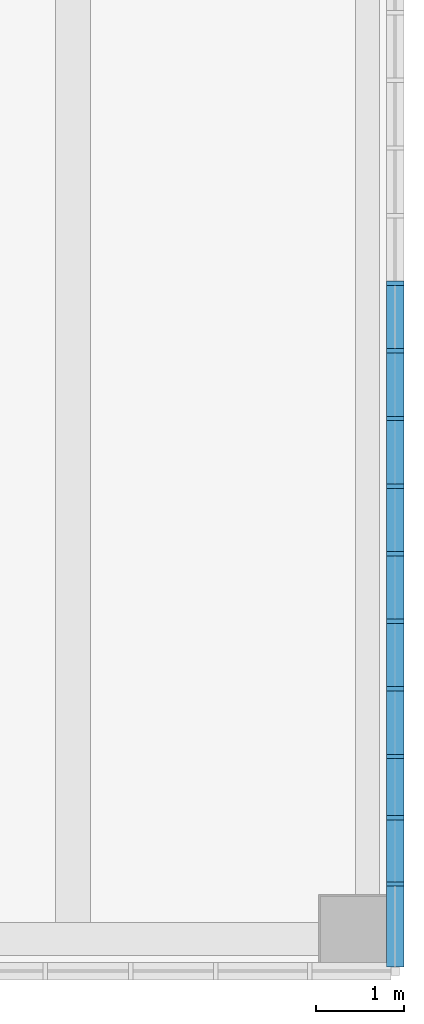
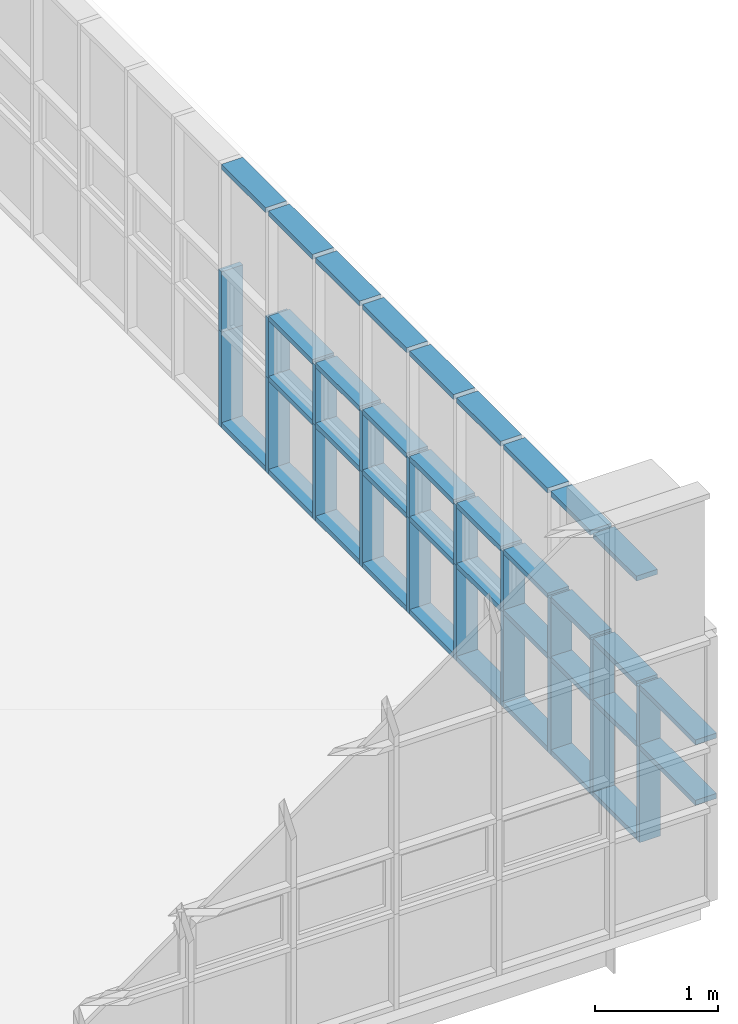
# One storey, part 22 of 76: 56 members, 1 element without a shape of its own.
"""IFC2X3 building model written with IfcOpenShell, lengths in millimetres."""

from ifc_helpers import new_model, entity, si_unit, converted_unit, derived_unit, direction, frame, origin, origin_2d_with_axis, place, context, subcontext, project, spatial, rectangle, extrude, source, transform, mapped, material, type_object, type_shapes, element, aggregate, save


model = new_model("IFC2X3")

# Units and contexts
model_context = context("Model", 3, precision=0.01, world=origin(), true_north=direction((6.123031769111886e-17, 1.0)))
body_context = subcontext(model_context, "Body", "Model", "MODEL_VIEW")
ifc_project = project(units=[si_unit("LENGTHUNIT", "METRE", prefix="MILLI"), si_unit("AREAUNIT", "SQUARE_METRE"), si_unit("VOLUMEUNIT", "CUBIC_METRE"), converted_unit("PLANEANGLEUNIT", "DEGREE", entity("IfcRatioMeasure", 0.017453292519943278), si_unit("PLANEANGLEUNIT", "RADIAN"), dimensions=[0, 0, 0, 0, 0, 0, 0]), si_unit("MASSUNIT", "GRAM", prefix="KILO"), derived_unit("MASSDENSITYUNIT", [(si_unit("MASSUNIT", "GRAM", prefix="KILO"), 1), (si_unit("LENGTHUNIT", "METRE"), -3)]), derived_unit("MOMENTOFINERTIAUNIT", [(si_unit("LENGTHUNIT", "METRE"), 4)]), si_unit("TIMEUNIT", "SECOND"), si_unit("FREQUENCYUNIT", "HERTZ"), si_unit("THERMODYNAMICTEMPERATUREUNIT", "DEGREE_CELSIUS"), derived_unit("THERMALTRANSMITTANCEUNIT", [(si_unit("MASSUNIT", "GRAM", prefix="KILO"), 1), (si_unit("THERMODYNAMICTEMPERATUREUNIT", "KELVIN"), -1), (si_unit("TIMEUNIT", "SECOND"), -3)]), derived_unit("VOLUMETRICFLOWRATEUNIT", [(si_unit("LENGTHUNIT", "METRE"), 3), (si_unit("TIMEUNIT", "SECOND"), -1)]), derived_unit("MASSFLOWRATEUNIT", [(si_unit("MASSUNIT", "GRAM", prefix="KILO"), 1), (si_unit("TIMEUNIT", "SECOND"), -1)]), derived_unit("ROTATIONALFREQUENCYUNIT", [(si_unit("TIMEUNIT", "SECOND"), -1)]), si_unit("ELECTRICCURRENTUNIT", "AMPERE"), si_unit("ELECTRICVOLTAGEUNIT", "VOLT"), si_unit("POWERUNIT", "WATT"), si_unit("FORCEUNIT", "NEWTON", prefix="KILO"), si_unit("ILLUMINANCEUNIT", "LUX"), si_unit("LUMINOUSFLUXUNIT", "LUMEN"), si_unit("LUMINOUSINTENSITYUNIT", "CANDELA"), derived_unit("USERDEFINED", [(si_unit("MASSUNIT", "GRAM", prefix="KILO"), -1), (si_unit("LENGTHUNIT", "METRE"), -2), (si_unit("TIMEUNIT", "SECOND"), 3), (si_unit("LUMINOUSFLUXUNIT", "LUMEN"), 1)]), derived_unit("SOUNDPOWERUNIT", [(si_unit("MASSUNIT", "GRAM", prefix="KILO"), 1), (si_unit("LENGTHUNIT", "METRE"), 2), (si_unit("TIMEUNIT", "SECOND"), -3)]), derived_unit("SOUNDPRESSUREUNIT", [(si_unit("MASSUNIT", "GRAM", prefix="KILO"), 1), (si_unit("LENGTHUNIT", "METRE"), -1), (si_unit("TIMEUNIT", "SECOND"), -2)]), derived_unit("LINEARVELOCITYUNIT", [(si_unit("LENGTHUNIT", "METRE"), 1), (si_unit("TIMEUNIT", "SECOND"), -1)]), si_unit("PRESSUREUNIT", "PASCAL"), derived_unit("USERDEFINED", [(si_unit("LENGTHUNIT", "METRE"), -2), (si_unit("MASSUNIT", "GRAM", prefix="KILO"), 1), (si_unit("TIMEUNIT", "SECOND"), -2)]), derived_unit("LINEARFORCEUNIT", [(si_unit("MASSUNIT", "GRAM", prefix="KILO"), 1), (si_unit("LENGTHUNIT", "METRE"), 1), (si_unit("TIMEUNIT", "SECOND"), -2), (si_unit("LENGTHUNIT", "METRE"), -1)]), derived_unit("PLANARFORCEUNIT", [(si_unit("MASSUNIT", "GRAM", prefix="KILO"), 1), (si_unit("LENGTHUNIT", "METRE"), 1), (si_unit("TIMEUNIT", "SECOND"), -2), (si_unit("LENGTHUNIT", "METRE"), -2)])], contexts=[model_context])

# Site, building, storey
site_placement = place(None, frame((-14167.972527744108, -657.2125860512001, 0.0)))
site = spatial("IfcSite", under=ifc_project, at=site_placement, Name="Default", CompositionType="ELEMENT")
building_placement = place(site_placement, origin())
building = spatial("IfcBuilding", under=site, at=building_placement, Name="Sample Building", CompositionType="ELEMENT")
storey_placement = place(building_placement, frame((0.0, 0.0, 9300.0)))
storey = spatial("IfcBuildingStorey", under=building, at=storey_placement, Name="지상 3층", CompositionType="ELEMENT", Elevation=9300.000000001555)

# Curtain wall, members
curtain_wall_type = type_object("IfcCurtainWallType", Name="커튼월:CW112-스테인리스 스틸 커튼월", PredefinedType="NOTDEFINED")
curtain_wall_placement = place(storey_placement, frame((0.0, 0.0, -9300.0)))
curtain_wall = element("IfcCurtainWall", 1, at=curtain_wall_placement, inside=storey, type_object=curtain_wall_type, Name="커튼월:CW112-스테인리스 스틸 커튼월", ObjectType="커튼월:CW112-스테인리스 스틸 커튼월")
ifc_material = material(Name="<Unnamed>")
member_type_1 = type_object("IfcMemberType", Name="직사각형 멀리언:CW200-직사각형 멀리언 50x200mm", PredefinedType="MULLION", material=ifc_material)
shared_shape_1 = source(origin(), body_context, "Body", "SweptSolid", [
    extrude(rectangle(XDim=200.0, YDim=50.0, at=origin_2d_with_axis()), frame((0.0, 0.0, -950.0), z_axis=(0.0, 0.0, 1.0), x_axis=(0.0, -1.0, 0.0)), (0.0, 0.0, 1.0), 950.0000000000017),
])
type_shapes(member_type_1, [shared_shape_1])
member_1_placement = place(curtain_wall_placement, frame((51517.96382893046, 3704.817707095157, 9380.0), z_axis=(0.0, 0.0, -1.0), x_axis=(0.0, -1.0, 0.0)))
member_1 = element("IfcMember", 2, at=member_1_placement, type_object=member_type_1, material=ifc_material, Name="직사각형 멀리언:CW200-직사각형 멀리언 50x200mm", ObjectType="직사각형 멀리언:CW200-직사각형 멀리언 50x200mm", context=body_context, shape_type="MappedRepresentation", body=[
    mapped(shared_shape_1, transform((0.0, 0.0, 0.0), scale=1.0)),
])
member_2_placement = place(curtain_wall_placement, frame((51517.96382893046, 2938.817707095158, 9380.0), z_axis=(0.0, 0.0, -1.0), x_axis=(0.0, -1.0, 0.0)))
member_2 = element("IfcMember", 3, at=member_2_placement, type_object=member_type_1, material=ifc_material, Name="직사각형 멀리언:CW200-직사각형 멀리언 50x200mm", ObjectType="직사각형 멀리언:CW200-직사각형 멀리언 50x200mm", context=body_context, shape_type="MappedRepresentation", body=[
    mapped(shared_shape_1, transform((0.0, 0.0, 0.0), scale=1.0)),
])
member_3_placement = place(curtain_wall_placement, frame((51517.96382893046, 2246.817707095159, 9380.0), z_axis=(0.0, 0.0, -1.0), x_axis=(0.0, -1.0, 0.0)))
member_3 = element("IfcMember", 4, at=member_3_placement, type_object=member_type_1, material=ifc_material, Name="직사각형 멀리언:CW200-직사각형 멀리언 50x200mm", ObjectType="직사각형 멀리언:CW200-직사각형 멀리언 50x200mm", context=body_context, shape_type="MappedRepresentation", body=[
    mapped(shared_shape_1, transform((0.0, 0.0, 0.0), scale=1.0)),
])
member_4_placement = place(curtain_wall_placement, frame((51517.96382893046, 1494.8177070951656, 9380.0), z_axis=(0.0, 0.0, -1.0), x_axis=(0.0, -1.0, 0.0)))
member_4 = element("IfcMember", 5, at=member_4_placement, type_object=member_type_1, material=ifc_material, Name="직사각형 멀리언:CW200-직사각형 멀리언 50x200mm", ObjectType="직사각형 멀리언:CW200-직사각형 멀리언 50x200mm", context=body_context, shape_type="MappedRepresentation", body=[
    mapped(shared_shape_1, transform((0.0, 0.0, 0.0), scale=1.0)),
])
member_5_placement = place(curtain_wall_placement, frame((51517.96382893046, 4470.817707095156, 9380.0), z_axis=(0.0, 0.0, -1.0), x_axis=(0.0, -1.0, 0.0)))
member_5 = element("IfcMember", 6, at=member_5_placement, type_object=member_type_1, material=ifc_material, Name="직사각형 멀리언:CW200-직사각형 멀리언 50x200mm", ObjectType="직사각형 멀리언:CW200-직사각형 멀리언 50x200mm", context=body_context, shape_type="MappedRepresentation", body=[
    mapped(shared_shape_1, transform((0.0, 0.0, 0.0), scale=1.0)),
])
member_6_placement = place(curtain_wall_placement, frame((51517.96382893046, 5236.817707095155, 9380.0), z_axis=(0.0, 0.0, -1.0), x_axis=(0.0, -1.0, 0.0)))
member_6 = element("IfcMember", 7, at=member_6_placement, type_object=member_type_1, material=ifc_material, Name="직사각형 멀리언:CW200-직사각형 멀리언 50x200mm", ObjectType="직사각형 멀리언:CW200-직사각형 멀리언 50x200mm", context=body_context, shape_type="MappedRepresentation", body=[
    mapped(shared_shape_1, transform((0.0, 0.0, 0.0), scale=1.0)),
])
member_7_placement = place(curtain_wall_placement, frame((51517.96382893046, 6002.817707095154, 9380.0), z_axis=(0.0, 0.0, -1.0), x_axis=(0.0, -1.0, 0.0)))
member_7 = element("IfcMember", 8, at=member_7_placement, type_object=member_type_1, material=ifc_material, Name="직사각형 멀리언:CW200-직사각형 멀리언 50x200mm", ObjectType="직사각형 멀리언:CW200-직사각형 멀리언 50x200mm", context=body_context, shape_type="MappedRepresentation", body=[
    mapped(shared_shape_1, transform((0.0, 0.0, 0.0), scale=1.0)),
])
member_8_placement = place(curtain_wall_placement, frame((51517.96382893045, 6768.817707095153, 9380.0), z_axis=(0.0, 0.0, -1.0), x_axis=(0.0, -1.0, 0.0)))
member_8 = element("IfcMember", 9, at=member_8_placement, type_object=member_type_1, material=ifc_material, Name="직사각형 멀리언:CW200-직사각형 멀리언 50x200mm", ObjectType="직사각형 멀리언:CW200-직사각형 멀리언 50x200mm", context=body_context, shape_type="MappedRepresentation", body=[
    mapped(shared_shape_1, transform((0.0, 0.0, 0.0), scale=1.0)),
])
member_9_placement = place(curtain_wall_placement, frame((51517.96382893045, 7534.817707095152, 9380.0), z_axis=(0.0, 0.0, -1.0), x_axis=(0.0, -1.0, 0.0)))
member_9 = element("IfcMember", 10, at=member_9_placement, type_object=member_type_1, material=ifc_material, Name="직사각형 멀리언:CW200-직사각형 멀리언 50x200mm", ObjectType="직사각형 멀리언:CW200-직사각형 멀리언 50x200mm", context=body_context, shape_type="MappedRepresentation", body=[
    mapped(shared_shape_1, transform((0.0, 0.0, 0.0), scale=1.0)),
])
member_10_placement = place(curtain_wall_placement, frame((51517.96382893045, 8300.817707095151, 9380.0), z_axis=(0.0, 0.0, -1.0), x_axis=(0.0, -1.0, 0.0)))
member_10 = element("IfcMember", 11, at=member_10_placement, type_object=member_type_1, material=ifc_material, Name="직사각형 멀리언:CW200-직사각형 멀리언 50x200mm", ObjectType="직사각형 멀리언:CW200-직사각형 멀리언 50x200mm", context=body_context, shape_type="MappedRepresentation", body=[
    mapped(shared_shape_1, transform((0.0, 0.0, 0.0), scale=1.0)),
])
member_type_2 = type_object("IfcMemberType", Name="직사각형 멀리언:CW200-직사각형 멀리언 50x200mm", PredefinedType="MULLION", material=ifc_material)
shared_shape_2 = source(origin(), body_context, "Body", "SweptSolid", [
    extrude(rectangle(XDim=200.0, YDim=50.0, at=origin_2d_with_axis()), frame((0.0, 0.0, -600.0), z_axis=(0.0, 0.0, 1.0), x_axis=(0.0, -1.0, 0.0)), (0.0, 0.0, 1.0), 599.9999999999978),
])
type_shapes(member_type_2, [shared_shape_2])
member_11_placement = place(curtain_wall_placement, frame((51517.96382893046, 3704.817707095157, 10330.0), z_axis=(0.0, 0.0, -1.0), x_axis=(0.0, -1.0, 0.0)))
member_11 = element("IfcMember", 12, at=member_11_placement, type_object=member_type_2, material=ifc_material, Name="직사각형 멀리언:CW200-직사각형 멀리언 50x200mm", ObjectType="직사각형 멀리언:CW200-직사각형 멀리언 50x200mm", context=body_context, shape_type="MappedRepresentation", body=[
    mapped(shared_shape_2, transform((0.0, 0.0, 0.0), scale=1.0)),
])
member_12_placement = place(curtain_wall_placement, frame((51517.96382893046, 2938.817707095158, 10330.0), z_axis=(0.0, 0.0, -1.0), x_axis=(0.0, -1.0, 0.0)))
member_12 = element("IfcMember", 13, at=member_12_placement, type_object=member_type_2, material=ifc_material, Name="직사각형 멀리언:CW200-직사각형 멀리언 50x200mm", ObjectType="직사각형 멀리언:CW200-직사각형 멀리언 50x200mm", context=body_context, shape_type="MappedRepresentation", body=[
    mapped(shared_shape_2, transform((0.0, 0.0, 0.0), scale=1.0)),
])
member_13_placement = place(curtain_wall_placement, frame((51517.96382893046, 2246.817707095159, 10330.0), z_axis=(0.0, 0.0, -1.0), x_axis=(0.0, -1.0, 0.0)))
member_13 = element("IfcMember", 14, at=member_13_placement, type_object=member_type_2, material=ifc_material, Name="직사각형 멀리언:CW200-직사각형 멀리언 50x200mm", ObjectType="직사각형 멀리언:CW200-직사각형 멀리언 50x200mm", context=body_context, shape_type="MappedRepresentation", body=[
    mapped(shared_shape_2, transform((0.0, 0.0, 0.0), scale=1.0)),
])
member_14_placement = place(curtain_wall_placement, frame((51517.96382893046, 1494.8177070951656, 10330.0), z_axis=(0.0, 0.0, -1.0), x_axis=(0.0, -1.0, 0.0)))
member_14 = element("IfcMember", 15, at=member_14_placement, type_object=member_type_2, material=ifc_material, Name="직사각형 멀리언:CW200-직사각형 멀리언 50x200mm", ObjectType="직사각형 멀리언:CW200-직사각형 멀리언 50x200mm", context=body_context, shape_type="MappedRepresentation", body=[
    mapped(shared_shape_2, transform((0.0, 0.0, 0.0), scale=1.0)),
])
member_15_placement = place(curtain_wall_placement, frame((51517.96382893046, 4470.817707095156, 10330.0), z_axis=(0.0, 0.0, -1.0), x_axis=(0.0, -1.0, 0.0)))
member_15 = element("IfcMember", 16, at=member_15_placement, type_object=member_type_2, material=ifc_material, Name="직사각형 멀리언:CW200-직사각형 멀리언 50x200mm", ObjectType="직사각형 멀리언:CW200-직사각형 멀리언 50x200mm", context=body_context, shape_type="MappedRepresentation", body=[
    mapped(shared_shape_2, transform((0.0, 0.0, 0.0), scale=1.0)),
])
member_16_placement = place(curtain_wall_placement, frame((51517.96382893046, 5236.817707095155, 10330.0), z_axis=(0.0, 0.0, -1.0), x_axis=(0.0, -1.0, 0.0)))
member_16 = element("IfcMember", 17, at=member_16_placement, type_object=member_type_2, material=ifc_material, Name="직사각형 멀리언:CW200-직사각형 멀리언 50x200mm", ObjectType="직사각형 멀리언:CW200-직사각형 멀리언 50x200mm", context=body_context, shape_type="MappedRepresentation", body=[
    mapped(shared_shape_2, transform((0.0, 0.0, 0.0), scale=1.0)),
])
member_17_placement = place(curtain_wall_placement, frame((51517.96382893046, 6002.817707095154, 10330.0), z_axis=(0.0, 0.0, -1.0), x_axis=(0.0, -1.0, 0.0)))
member_17 = element("IfcMember", 18, at=member_17_placement, type_object=member_type_2, material=ifc_material, Name="직사각형 멀리언:CW200-직사각형 멀리언 50x200mm", ObjectType="직사각형 멀리언:CW200-직사각형 멀리언 50x200mm", context=body_context, shape_type="MappedRepresentation", body=[
    mapped(shared_shape_2, transform((0.0, 0.0, 0.0), scale=1.0)),
])
member_18_placement = place(curtain_wall_placement, frame((51517.96382893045, 6768.817707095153, 10330.0), z_axis=(0.0, 0.0, -1.0), x_axis=(0.0, -1.0, 0.0)))
member_18 = element("IfcMember", 19, at=member_18_placement, type_object=member_type_2, material=ifc_material, Name="직사각형 멀리언:CW200-직사각형 멀리언 50x200mm", ObjectType="직사각형 멀리언:CW200-직사각형 멀리언 50x200mm", context=body_context, shape_type="MappedRepresentation", body=[
    mapped(shared_shape_2, transform((0.0, 0.0, 0.0), scale=1.0)),
])
member_19_placement = place(curtain_wall_placement, frame((51517.96382893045, 7534.817707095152, 10330.0), z_axis=(0.0, 0.0, -1.0), x_axis=(0.0, -1.0, 0.0)))
member_19 = element("IfcMember", 20, at=member_19_placement, type_object=member_type_2, material=ifc_material, Name="직사각형 멀리언:CW200-직사각형 멀리언 50x200mm", ObjectType="직사각형 멀리언:CW200-직사각형 멀리언 50x200mm", context=body_context, shape_type="MappedRepresentation", body=[
    mapped(shared_shape_2, transform((0.0, 0.0, 0.0), scale=1.0)),
])
member_20_placement = place(curtain_wall_placement, frame((51517.96382893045, 8300.817707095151, 10330.0), z_axis=(0.0, 0.0, -1.0), x_axis=(0.0, -1.0, 0.0)))
member_20 = element("IfcMember", 21, at=member_20_placement, type_object=member_type_2, material=ifc_material, Name="직사각형 멀리언:CW200-직사각형 멀리언 50x200mm", ObjectType="직사각형 멀리언:CW200-직사각형 멀리언 50x200mm", context=body_context, shape_type="MappedRepresentation", body=[
    mapped(shared_shape_2, transform((0.0, 0.0, 0.0), scale=1.0)),
])
member_type_3 = type_object("IfcMemberType", Name="직사각형 멀리언:CW200-직사각형 멀리언 50x200mm", PredefinedType="MULLION", material=ifc_material)
shared_shape_3 = source(origin(), body_context, "Body", "SweptSolid", [
    extrude(rectangle(XDim=200.0, YDim=50.0, at=origin_2d_with_axis()), frame((-25.0, 0.0, -716.0), z_axis=(0.0, 0.0, 1.0), x_axis=(0.0, -1.0, 0.0)), (0.0, 0.0, 1.0), 715.9999999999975),
])
type_shapes(member_type_3, [shared_shape_3])
member_21_placement = place(curtain_wall_placement, frame((51517.96382893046, 3729.817707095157, 12000.0), z_axis=(0.0, -1.0, 0.0), x_axis=(0.0, 0.0, 1.0)))
member_21 = element("IfcMember", 22, at=member_21_placement, type_object=member_type_3, material=ifc_material, Name="직사각형 멀리언:CW200-직사각형 멀리언 50x200mm", ObjectType="직사각형 멀리언:CW200-직사각형 멀리언 50x200mm", context=body_context, shape_type="MappedRepresentation", body=[
    mapped(shared_shape_3, transform((0.0, 0.0, 0.0), scale=1.0)),
])
member_22_placement = place(curtain_wall_placement, frame((51517.96382893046, 2963.817707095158, 12000.0), z_axis=(0.0, -1.0, 0.0), x_axis=(0.0, 0.0, 1.0)))
member_22 = element("IfcMember", 23, at=member_22_placement, type_object=member_type_3, material=ifc_material, Name="직사각형 멀리언:CW200-직사각형 멀리언 50x200mm", ObjectType="직사각형 멀리언:CW200-직사각형 멀리언 50x200mm", context=body_context, shape_type="MappedRepresentation", body=[
    mapped(shared_shape_3, transform((0.0, 0.0, 0.0), scale=1.0)),
])
member_23_placement = place(curtain_wall_placement, frame((51517.96382893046, 4495.817707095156, 12000.0), z_axis=(0.0, -1.0, 0.0), x_axis=(0.0, 0.0, 1.0)))
member_23 = element("IfcMember", 24, at=member_23_placement, type_object=member_type_3, material=ifc_material, Name="직사각형 멀리언:CW200-직사각형 멀리언 50x200mm", ObjectType="직사각형 멀리언:CW200-직사각형 멀리언 50x200mm", context=body_context, shape_type="MappedRepresentation", body=[
    mapped(shared_shape_3, transform((0.0, 0.0, 0.0), scale=1.0)),
])
member_24_placement = place(curtain_wall_placement, frame((51517.96382893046, 5261.817707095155, 12000.0), z_axis=(0.0, -1.0, 0.0), x_axis=(0.0, 0.0, 1.0)))
member_24 = element("IfcMember", 25, at=member_24_placement, type_object=member_type_3, material=ifc_material, Name="직사각형 멀리언:CW200-직사각형 멀리언 50x200mm", ObjectType="직사각형 멀리언:CW200-직사각형 멀리언 50x200mm", context=body_context, shape_type="MappedRepresentation", body=[
    mapped(shared_shape_3, transform((0.0, 0.0, 0.0), scale=1.0)),
])
member_25_placement = place(curtain_wall_placement, frame((51517.96382893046, 6027.817707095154, 12000.0), z_axis=(0.0, -1.0, 0.0), x_axis=(0.0, 0.0, 1.0)))
member_25 = element("IfcMember", 26, at=member_25_placement, type_object=member_type_3, material=ifc_material, Name="직사각형 멀리언:CW200-직사각형 멀리언 50x200mm", ObjectType="직사각형 멀리언:CW200-직사각형 멀리언 50x200mm", context=body_context, shape_type="MappedRepresentation", body=[
    mapped(shared_shape_3, transform((0.0, 0.0, 0.0), scale=1.0)),
])
member_26_placement = place(curtain_wall_placement, frame((51517.96382893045, 6793.817707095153, 12000.0), z_axis=(0.0, -1.0, 0.0), x_axis=(0.0, 0.0, 1.0)))
member_26 = element("IfcMember", 27, at=member_26_placement, type_object=member_type_3, material=ifc_material, Name="직사각형 멀리언:CW200-직사각형 멀리언 50x200mm", ObjectType="직사각형 멀리언:CW200-직사각형 멀리언 50x200mm", context=body_context, shape_type="MappedRepresentation", body=[
    mapped(shared_shape_3, transform((0.0, 0.0, 0.0), scale=1.0)),
])
member_27_placement = place(curtain_wall_placement, frame((51517.96382893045, 7559.817707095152, 12000.0), z_axis=(0.0, -1.0, 0.0), x_axis=(0.0, 0.0, 1.0)))
member_27 = element("IfcMember", 28, at=member_27_placement, type_object=member_type_3, material=ifc_material, Name="직사각형 멀리언:CW200-직사각형 멀리언 50x200mm", ObjectType="직사각형 멀리언:CW200-직사각형 멀리언 50x200mm", context=body_context, shape_type="MappedRepresentation", body=[
    mapped(shared_shape_3, transform((0.0, 0.0, 0.0), scale=1.0)),
])
member_type_4 = type_object("IfcMemberType", Name="직사각형 멀리언:CW200-직사각형 멀리언 50x200mm", PredefinedType="MULLION", material=ifc_material)
shared_shape_4 = source(origin(), body_context, "Body", "SweptSolid", [
    extrude(rectangle(XDim=200.0, YDim=50.0, at=origin_2d_with_axis()), frame((-25.0, 0.0, -716.0), z_axis=(0.0, 0.0, 1.0), x_axis=(0.0, -1.0, 0.0)), (0.0, 0.0, 1.0), 716.0000000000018),
])
type_shapes(member_type_4, [shared_shape_4])
member_28_placement = place(curtain_wall_placement, frame((51517.96382893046, 3679.8177070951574, 9380.0), z_axis=(0.0, 1.0, 0.0), x_axis=(0.0, 0.0, -1.0)))
member_28 = element("IfcMember", 29, at=member_28_placement, type_object=member_type_4, material=ifc_material, Name="직사각형 멀리언:CW200-직사각형 멀리언 50x200mm", ObjectType="직사각형 멀리언:CW200-직사각형 멀리언 50x200mm", context=body_context, shape_type="MappedRepresentation", body=[
    mapped(shared_shape_4, transform((0.0, 0.0, 0.0), scale=1.0)),
])
member_29_placement = place(curtain_wall_placement, frame((51517.96382893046, 4445.817707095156, 9380.0), z_axis=(0.0, 1.0, 0.0), x_axis=(0.0, 0.0, -1.0)))
member_29 = element("IfcMember", 30, at=member_29_placement, type_object=member_type_4, material=ifc_material, Name="직사각형 멀리언:CW200-직사각형 멀리언 50x200mm", ObjectType="직사각형 멀리언:CW200-직사각형 멀리언 50x200mm", context=body_context, shape_type="MappedRepresentation", body=[
    mapped(shared_shape_4, transform((0.0, 0.0, 0.0), scale=1.0)),
])
member_30_placement = place(curtain_wall_placement, frame((51517.96382893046, 5211.817707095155, 9380.0), z_axis=(0.0, 1.0, 0.0), x_axis=(0.0, 0.0, -1.0)))
member_30 = element("IfcMember", 31, at=member_30_placement, type_object=member_type_4, material=ifc_material, Name="직사각형 멀리언:CW200-직사각형 멀리언 50x200mm", ObjectType="직사각형 멀리언:CW200-직사각형 멀리언 50x200mm", context=body_context, shape_type="MappedRepresentation", body=[
    mapped(shared_shape_4, transform((0.0, 0.0, 0.0), scale=1.0)),
])
member_31_placement = place(curtain_wall_placement, frame((51517.96382893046, 5977.817707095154, 9380.0), z_axis=(0.0, 1.0, 0.0), x_axis=(0.0, 0.0, -1.0)))
member_31 = element("IfcMember", 32, at=member_31_placement, type_object=member_type_4, material=ifc_material, Name="직사각형 멀리언:CW200-직사각형 멀리언 50x200mm", ObjectType="직사각형 멀리언:CW200-직사각형 멀리언 50x200mm", context=body_context, shape_type="MappedRepresentation", body=[
    mapped(shared_shape_4, transform((0.0, 0.0, 0.0), scale=1.0)),
])
member_32_placement = place(curtain_wall_placement, frame((51517.96382893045, 6743.817707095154, 9380.0), z_axis=(0.0, 1.0, 0.0), x_axis=(0.0, 0.0, -1.0)))
member_32 = element("IfcMember", 33, at=member_32_placement, type_object=member_type_4, material=ifc_material, Name="직사각형 멀리언:CW200-직사각형 멀리언 50x200mm", ObjectType="직사각형 멀리언:CW200-직사각형 멀리언 50x200mm", context=body_context, shape_type="MappedRepresentation", body=[
    mapped(shared_shape_4, transform((0.0, 0.0, 0.0), scale=1.0)),
])
member_33_placement = place(curtain_wall_placement, frame((51517.96382893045, 7509.817707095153, 9380.0), z_axis=(0.0, 1.0, 0.0), x_axis=(0.0, 0.0, -1.0)))
member_33 = element("IfcMember", 34, at=member_33_placement, type_object=member_type_4, material=ifc_material, Name="직사각형 멀리언:CW200-직사각형 멀리언 50x200mm", ObjectType="직사각형 멀리언:CW200-직사각형 멀리언 50x200mm", context=body_context, shape_type="MappedRepresentation", body=[
    mapped(shared_shape_4, transform((0.0, 0.0, 0.0), scale=1.0)),
])
member_34_placement = place(curtain_wall_placement, frame((51517.96382893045, 8275.817707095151, 9380.0), z_axis=(0.0, 1.0, 0.0), x_axis=(0.0, 0.0, -1.0)))
member_34 = element("IfcMember", 35, at=member_34_placement, type_object=member_type_4, material=ifc_material, Name="직사각형 멀리언:CW200-직사각형 멀리언 50x200mm", ObjectType="직사각형 멀리언:CW200-직사각형 멀리언 50x200mm", context=body_context, shape_type="MappedRepresentation", body=[
    mapped(shared_shape_4, transform((0.0, 0.0, 0.0), scale=1.0)),
])
member_type_5 = type_object("IfcMemberType", Name="직사각형 멀리언:CW200-직사각형 멀리언 50x200mm", PredefinedType="MULLION", material=ifc_material)
shared_shape_5 = source(origin(), body_context, "Body", "SweptSolid", [
    extrude(rectangle(XDim=200.0, YDim=50.0, at=origin_2d_with_axis()), frame((0.0, 0.0, -716.0), z_axis=(0.0, 0.0, 1.0), x_axis=(0.0, -1.0, 0.0)), (0.0, 0.0, 1.0), 715.9999999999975),
])
type_shapes(member_type_5, [shared_shape_5])
member_35_placement = place(curtain_wall_placement, frame((51517.96382893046, 2963.817707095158, 10330.0), z_axis=(0.0, -1.0, 0.0), x_axis=(0.0, 0.0, 1.0)))
member_35 = element("IfcMember", 36, at=member_35_placement, type_object=member_type_5, material=ifc_material, Name="직사각형 멀리언:CW200-직사각형 멀리언 50x200mm", ObjectType="직사각형 멀리언:CW200-직사각형 멀리언 50x200mm", context=body_context, shape_type="MappedRepresentation", body=[
    mapped(shared_shape_5, transform((0.0, 0.0, 0.0), scale=1.0)),
])
member_36_placement = place(curtain_wall_placement, frame((51517.96382893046, 2963.817707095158, 10930.0), z_axis=(0.0, -1.0, 0.0), x_axis=(0.0, 0.0, 1.0)))
member_36 = element("IfcMember", 37, at=member_36_placement, type_object=member_type_5, material=ifc_material, Name="직사각형 멀리언:CW200-직사각형 멀리언 50x200mm", ObjectType="직사각형 멀리언:CW200-직사각형 멀리언 50x200mm", context=body_context, shape_type="MappedRepresentation", body=[
    mapped(shared_shape_5, transform((0.0, 0.0, 0.0), scale=1.0)),
])
member_37_placement = place(curtain_wall_placement, frame((51517.96382893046, 3729.817707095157, 10330.0), z_axis=(0.0, -1.0, 0.0), x_axis=(0.0, 0.0, 1.0)))
member_37 = element("IfcMember", 38, at=member_37_placement, type_object=member_type_5, material=ifc_material, Name="직사각형 멀리언:CW200-직사각형 멀리언 50x200mm", ObjectType="직사각형 멀리언:CW200-직사각형 멀리언 50x200mm", context=body_context, shape_type="MappedRepresentation", body=[
    mapped(shared_shape_5, transform((0.0, 0.0, 0.0), scale=1.0)),
])
member_38_placement = place(curtain_wall_placement, frame((51517.96382893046, 3729.817707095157, 10930.0), z_axis=(0.0, -1.0, 0.0), x_axis=(0.0, 0.0, 1.0)))
member_38 = element("IfcMember", 39, at=member_38_placement, type_object=member_type_5, material=ifc_material, Name="직사각형 멀리언:CW200-직사각형 멀리언 50x200mm", ObjectType="직사각형 멀리언:CW200-직사각형 멀리언 50x200mm", context=body_context, shape_type="MappedRepresentation", body=[
    mapped(shared_shape_5, transform((0.0, 0.0, 0.0), scale=1.0)),
])
member_39_placement = place(curtain_wall_placement, frame((51517.96382893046, 4495.817707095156, 10330.0), z_axis=(0.0, -1.0, 0.0), x_axis=(0.0, 0.0, 1.0)))
member_39 = element("IfcMember", 40, at=member_39_placement, type_object=member_type_5, material=ifc_material, Name="직사각형 멀리언:CW200-직사각형 멀리언 50x200mm", ObjectType="직사각형 멀리언:CW200-직사각형 멀리언 50x200mm", context=body_context, shape_type="MappedRepresentation", body=[
    mapped(shared_shape_5, transform((0.0, 0.0, 0.0), scale=1.0)),
])
member_40_placement = place(curtain_wall_placement, frame((51517.96382893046, 4495.817707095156, 10930.0), z_axis=(0.0, -1.0, 0.0), x_axis=(0.0, 0.0, 1.0)))
member_40 = element("IfcMember", 41, at=member_40_placement, type_object=member_type_5, material=ifc_material, Name="직사각형 멀리언:CW200-직사각형 멀리언 50x200mm", ObjectType="직사각형 멀리언:CW200-직사각형 멀리언 50x200mm", context=body_context, shape_type="MappedRepresentation", body=[
    mapped(shared_shape_5, transform((0.0, 0.0, 0.0), scale=1.0)),
])
member_41_placement = place(curtain_wall_placement, frame((51517.96382893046, 5261.817707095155, 10330.0), z_axis=(0.0, -1.0, 0.0), x_axis=(0.0, 0.0, 1.0)))
member_41 = element("IfcMember", 42, at=member_41_placement, type_object=member_type_5, material=ifc_material, Name="직사각형 멀리언:CW200-직사각형 멀리언 50x200mm", ObjectType="직사각형 멀리언:CW200-직사각형 멀리언 50x200mm", context=body_context, shape_type="MappedRepresentation", body=[
    mapped(shared_shape_5, transform((0.0, 0.0, 0.0), scale=1.0)),
])
member_42_placement = place(curtain_wall_placement, frame((51517.96382893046, 5261.817707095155, 10930.0), z_axis=(0.0, -1.0, 0.0), x_axis=(0.0, 0.0, 1.0)))
member_42 = element("IfcMember", 43, at=member_42_placement, type_object=member_type_5, material=ifc_material, Name="직사각형 멀리언:CW200-직사각형 멀리언 50x200mm", ObjectType="직사각형 멀리언:CW200-직사각형 멀리언 50x200mm", context=body_context, shape_type="MappedRepresentation", body=[
    mapped(shared_shape_5, transform((0.0, 0.0, 0.0), scale=1.0)),
])
member_43_placement = place(curtain_wall_placement, frame((51517.96382893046, 6027.817707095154, 10330.0), z_axis=(0.0, -1.0, 0.0), x_axis=(0.0, 0.0, 1.0)))
member_43 = element("IfcMember", 44, at=member_43_placement, type_object=member_type_5, material=ifc_material, Name="직사각형 멀리언:CW200-직사각형 멀리언 50x200mm", ObjectType="직사각형 멀리언:CW200-직사각형 멀리언 50x200mm", context=body_context, shape_type="MappedRepresentation", body=[
    mapped(shared_shape_5, transform((0.0, 0.0, 0.0), scale=1.0)),
])
member_44_placement = place(curtain_wall_placement, frame((51517.96382893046, 6027.817707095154, 10930.0), z_axis=(0.0, -1.0, 0.0), x_axis=(0.0, 0.0, 1.0)))
member_44 = element("IfcMember", 45, at=member_44_placement, type_object=member_type_5, material=ifc_material, Name="직사각형 멀리언:CW200-직사각형 멀리언 50x200mm", ObjectType="직사각형 멀리언:CW200-직사각형 멀리언 50x200mm", context=body_context, shape_type="MappedRepresentation", body=[
    mapped(shared_shape_5, transform((0.0, 0.0, 0.0), scale=1.0)),
])
member_45_placement = place(curtain_wall_placement, frame((51517.96382893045, 6793.817707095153, 10330.0), z_axis=(0.0, -1.0, 0.0), x_axis=(0.0, 0.0, 1.0)))
member_45 = element("IfcMember", 46, at=member_45_placement, type_object=member_type_5, material=ifc_material, Name="직사각형 멀리언:CW200-직사각형 멀리언 50x200mm", ObjectType="직사각형 멀리언:CW200-직사각형 멀리언 50x200mm", context=body_context, shape_type="MappedRepresentation", body=[
    mapped(shared_shape_5, transform((0.0, 0.0, 0.0), scale=1.0)),
])
member_46_placement = place(curtain_wall_placement, frame((51517.96382893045, 6793.817707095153, 10930.0), z_axis=(0.0, -1.0, 0.0), x_axis=(0.0, 0.0, 1.0)))
member_46 = element("IfcMember", 47, at=member_46_placement, type_object=member_type_5, material=ifc_material, Name="직사각형 멀리언:CW200-직사각형 멀리언 50x200mm", ObjectType="직사각형 멀리언:CW200-직사각형 멀리언 50x200mm", context=body_context, shape_type="MappedRepresentation", body=[
    mapped(shared_shape_5, transform((0.0, 0.0, 0.0), scale=1.0)),
])
member_type_6 = type_object("IfcMemberType", Name="직사각형 멀리언:CW200-직사각형 멀리언 50x200mm", PredefinedType="MULLION", material=ifc_material)
shared_shape_6 = source(origin(), body_context, "Body", "SweptSolid", [
    extrude(rectangle(XDim=200.0, YDim=50.0, at=origin_2d_with_axis()), frame((-25.0, 0.0, -642.0), z_axis=(0.0, 0.0, 1.0), x_axis=(0.0, -1.0, 0.0)), (0.0, 0.0, 1.0), 641.9999999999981),
])
type_shapes(member_type_6, [shared_shape_6])
member_47_placement = place(curtain_wall_placement, frame((51517.96382893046, 2913.8177070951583, 9380.0), z_axis=(0.0, 1.0, 0.0), x_axis=(0.0, 0.0, -1.0)))
member_47 = element("IfcMember", 48, at=member_47_placement, type_object=member_type_6, material=ifc_material, Name="직사각형 멀리언:CW200-직사각형 멀리언 50x200mm", ObjectType="직사각형 멀리언:CW200-직사각형 멀리언 50x200mm", context=body_context, shape_type="MappedRepresentation", body=[
    mapped(shared_shape_6, transform((0.0, 0.0, 0.0), scale=1.0)),
])
member_type_7 = type_object("IfcMemberType", Name="직사각형 멀리언:CW200-직사각형 멀리언 50x200mm", PredefinedType="MULLION", material=ifc_material)
shared_shape_7 = source(origin(), body_context, "Body", "SweptSolid", [
    extrude(rectangle(XDim=200.0, YDim=50.0, at=origin_2d_with_axis()), frame((0.0, 0.0, -642.0), z_axis=(0.0, 0.0, 1.0), x_axis=(0.0, -1.0, 0.0)), (0.0, 0.0, 1.0), 641.9999999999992),
])
type_shapes(member_type_7, [shared_shape_7])
member_48_placement = place(curtain_wall_placement, frame((51517.96382893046, 2271.817707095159, 10330.0), z_axis=(0.0, -1.0, 0.0), x_axis=(0.0, 0.0, 1.0)))
member_48 = element("IfcMember", 49, at=member_48_placement, type_object=member_type_7, material=ifc_material, Name="직사각형 멀리언:CW200-직사각형 멀리언 50x200mm", ObjectType="직사각형 멀리언:CW200-직사각형 멀리언 50x200mm", context=body_context, shape_type="MappedRepresentation", body=[
    mapped(shared_shape_7, transform((0.0, 0.0, 0.0), scale=1.0)),
])
member_49_placement = place(curtain_wall_placement, frame((51517.96382893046, 2271.817707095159, 10930.0), z_axis=(0.0, -1.0, 0.0), x_axis=(0.0, 0.0, 1.0)))
member_49 = element("IfcMember", 50, at=member_49_placement, type_object=member_type_7, material=ifc_material, Name="직사각형 멀리언:CW200-직사각형 멀리언 50x200mm", ObjectType="직사각형 멀리언:CW200-직사각형 멀리언 50x200mm", context=body_context, shape_type="MappedRepresentation", body=[
    mapped(shared_shape_7, transform((0.0, 0.0, 0.0), scale=1.0)),
])
member_type_8 = type_object("IfcMemberType", Name="직사각형 멀리언:CW200-직사각형 멀리언 50x200mm", PredefinedType="MULLION", material=ifc_material)
shared_shape_8 = source(origin(), body_context, "Body", "SweptSolid", [
    extrude(rectangle(XDim=200.0, YDim=50.0, at=origin_2d_with_axis()), frame((-25.0, 0.0, -642.0), z_axis=(0.0, 0.0, 1.0), x_axis=(0.0, -1.0, 0.0)), (0.0, 0.0, 1.0), 641.9999999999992),
])
type_shapes(member_type_8, [shared_shape_8])
member_50_placement = place(curtain_wall_placement, frame((51517.96382893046, 2271.817707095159, 12000.0), z_axis=(0.0, -1.0, 0.0), x_axis=(0.0, 0.0, 1.0)))
member_50 = element("IfcMember", 51, at=member_50_placement, type_object=member_type_8, material=ifc_material, Name="직사각형 멀리언:CW200-직사각형 멀리언 50x200mm", ObjectType="직사각형 멀리언:CW200-직사각형 멀리언 50x200mm", context=body_context, shape_type="MappedRepresentation", body=[
    mapped(shared_shape_8, transform((0.0, 0.0, 0.0), scale=1.0)),
])
member_type_9 = type_object("IfcMemberType", Name="직사각형 멀리언:CW200-직사각형 멀리언 50x200mm", PredefinedType="MULLION", material=ifc_material)
shared_shape_9 = source(origin(), body_context, "Body", "SweptSolid", [
    extrude(rectangle(XDim=200.0, YDim=50.0, at=origin_2d_with_axis()), frame((-25.0, 0.0, -702.0), z_axis=(0.0, 0.0, 1.0), x_axis=(0.0, -1.0, 0.0)), (0.0, 0.0, 1.0), 701.9999999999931),
])
type_shapes(member_type_9, [shared_shape_9])
member_51_placement = place(curtain_wall_placement, frame((51517.96382893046, 2221.817707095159, 9380.0), z_axis=(0.0, 1.0, 0.0), x_axis=(0.0, 0.0, -1.0)))
member_51 = element("IfcMember", 52, at=member_51_placement, type_object=member_type_9, material=ifc_material, Name="직사각형 멀리언:CW200-직사각형 멀리언 50x200mm", ObjectType="직사각형 멀리언:CW200-직사각형 멀리언 50x200mm", context=body_context, shape_type="MappedRepresentation", body=[
    mapped(shared_shape_9, transform((0.0, 0.0, 0.0), scale=1.0)),
])
member_type_10 = type_object("IfcMemberType", Name="직사각형 멀리언:CW200-직사각형 멀리언 50x200mm", PredefinedType="MULLION", material=ifc_material)
shared_shape_10 = source(origin(), body_context, "Body", "SweptSolid", [
    extrude(rectangle(XDim=200.0, YDim=50.0, at=origin_2d_with_axis()), frame((0.0, 0.0, -702.0), z_axis=(0.0, 0.0, 1.0), x_axis=(0.0, -1.0, 0.0)), (0.0, 0.0, 1.0), 701.9999999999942),
])
type_shapes(member_type_10, [shared_shape_10])
member_52_placement = place(curtain_wall_placement, frame((51517.96382893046, 1519.8177070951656, 10330.0), z_axis=(0.0, -1.0, 0.0), x_axis=(0.0, 0.0, 1.0)))
member_52 = element("IfcMember", 53, at=member_52_placement, type_object=member_type_10, material=ifc_material, Name="직사각형 멀리언:CW200-직사각형 멀리언 50x200mm", ObjectType="직사각형 멀리언:CW200-직사각형 멀리언 50x200mm", context=body_context, shape_type="MappedRepresentation", body=[
    mapped(shared_shape_10, transform((0.0, 0.0, 0.0), scale=1.0)),
])
member_53_placement = place(curtain_wall_placement, frame((51517.96382893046, 1519.8177070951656, 10930.0), z_axis=(0.0, -1.0, 0.0), x_axis=(0.0, 0.0, 1.0)))
member_53 = element("IfcMember", 54, at=member_53_placement, type_object=member_type_10, material=ifc_material, Name="직사각형 멀리언:CW200-직사각형 멀리언 50x200mm", ObjectType="직사각형 멀리언:CW200-직사각형 멀리언 50x200mm", context=body_context, shape_type="MappedRepresentation", body=[
    mapped(shared_shape_10, transform((0.0, 0.0, 0.0), scale=1.0)),
])
member_type_11 = type_object("IfcMemberType", Name="직사각형 멀리언:CW200-직사각형 멀리언 50x200mm", PredefinedType="MULLION", material=ifc_material)
shared_shape_11 = source(origin(), body_context, "Body", "SweptSolid", [
    extrude(rectangle(XDim=200.0, YDim=50.0, at=origin_2d_with_axis()), frame((-25.0, 0.0, -702.0), z_axis=(0.0, 0.0, 1.0), x_axis=(0.0, -1.0, 0.0)), (0.0, 0.0, 1.0), 701.9999999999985),
])
type_shapes(member_type_11, [shared_shape_11])
member_54_placement = place(curtain_wall_placement, frame((51517.96382893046, 1519.8177070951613, 12000.0), z_axis=(0.0, -1.0, 0.0), x_axis=(0.0, 0.0, 1.0)))
member_54 = element("IfcMember", 55, at=member_54_placement, type_object=member_type_11, material=ifc_material, Name="직사각형 멀리언:CW200-직사각형 멀리언 50x200mm", ObjectType="직사각형 멀리언:CW200-직사각형 멀리언 50x200mm", context=body_context, shape_type="MappedRepresentation", body=[
    mapped(shared_shape_11, transform((0.0, 0.0, 0.0), scale=1.0)),
])
member_type_12 = type_object("IfcMemberType", Name="직사각형 멀리언:CW200-직사각형 멀리언 50x200mm", PredefinedType="MULLION", material=ifc_material)
shared_shape_12 = source(origin(), body_context, "Body", "SweptSolid", [
    extrude(rectangle(XDim=200.0, YDim=50.0, at=origin_2d_with_axis()), frame((0.0, 0.0, -912.6053991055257), z_axis=(0.0, 0.0, 1.0), x_axis=(0.0, -1.0, 0.0)), (0.0, 0.0, 1.0), 912.6053991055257),
])
type_shapes(member_type_12, [shared_shape_12])
member_55_placement = place(curtain_wall_placement, frame((51517.96382893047, 557.2123079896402, 10330.0), z_axis=(0.0, -1.0, 0.0), x_axis=(0.0, 0.0, 1.0)))
member_55 = element("IfcMember", 56, at=member_55_placement, type_object=member_type_12, material=ifc_material, Name="직사각형 멀리언:CW200-직사각형 멀리언 50x200mm", ObjectType="직사각형 멀리언:CW200-직사각형 멀리언 50x200mm", context=body_context, shape_type="MappedRepresentation", body=[
    mapped(shared_shape_12, transform((0.0, 0.0, 0.0), scale=1.0)),
])
member_56_placement = place(curtain_wall_placement, frame((51517.96382893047, 557.2123079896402, 10930.0), z_axis=(0.0, -1.0, 0.0), x_axis=(0.0, 0.0, 1.0)))
member_56 = element("IfcMember", 57, at=member_56_placement, type_object=member_type_12, material=ifc_material, Name="직사각형 멀리언:CW200-직사각형 멀리언 50x200mm", ObjectType="직사각형 멀리언:CW200-직사각형 멀리언 50x200mm", context=body_context, shape_type="MappedRepresentation", body=[
    mapped(shared_shape_12, transform((0.0, 0.0, 0.0), scale=1.0)),
])
aggregate(curtain_wall, [member_21, member_28, member_35, member_36, member_1, member_11, member_22, member_47, member_48, member_49, member_2, member_12, member_50, member_51, member_52, member_53, member_3, member_13, member_54, member_55, member_56, member_4, member_14, member_29, member_37, member_38, member_23, member_5, member_15, member_30, member_39, member_40, member_24, member_6, member_16, member_31, member_41, member_42, member_25, member_7, member_17, member_8, member_18, member_32, member_43, member_44, member_26, member_9, member_19, member_33, member_45, member_46, member_27, member_10, member_20, member_34])

save(model, "model.ifc")
